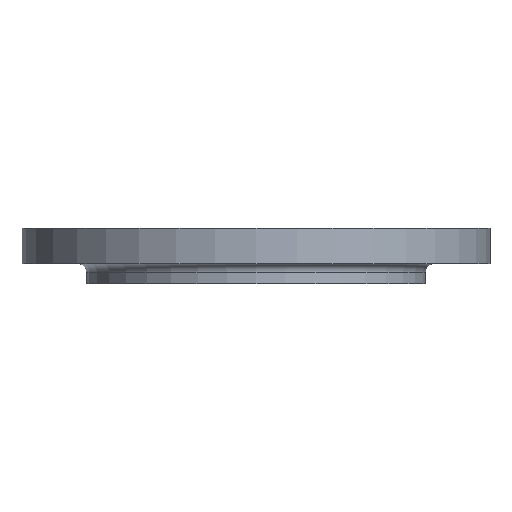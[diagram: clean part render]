
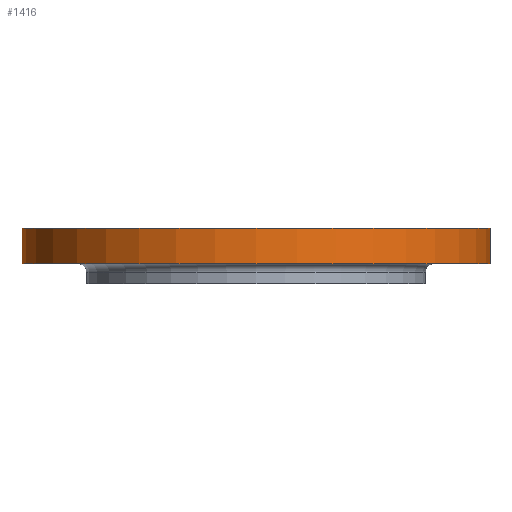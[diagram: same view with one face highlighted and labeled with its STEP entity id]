
A CAD part, front view. The second image highlights one B-rep face of the part: STEP entity #1416.
In plain terms, the highlighted cylindrical face has radius 330 mm (diameter 660 mm), a partial arc.
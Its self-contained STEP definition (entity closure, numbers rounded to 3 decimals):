
#122 = AXIS2_PLACEMENT_3D ( 'NONE', #463, #462, #461 ) ;
#125 = CIRCLE ( 'NONE', #122, 330. ) ;
#129 = VECTOR ( 'NONE', #1106, 1000. ) ;
#130 = CIRCLE ( 'NONE', #132, 330. ) ;
#132 = AXIS2_PLACEMENT_3D ( 'NONE', #1105, #1102, #1101 ) ;
#142 = ORIENTED_EDGE ( 'NONE', *, *, #1400, .T. ) ;
#144 = ORIENTED_EDGE ( 'NONE', *, *, #674, .F. ) ;
#147 = ORIENTED_EDGE ( 'NONE', *, *, #696, .F. ) ;
#152 = ORIENTED_EDGE ( 'NONE', *, *, #693, .T. ) ;
#295 = CARTESIAN_POINT ( 'NONE',  ( 330., 0., -50. ) ) ;
#302 = CARTESIAN_POINT ( 'NONE',  ( -330., 0., -50. ) ) ;
#323 = CARTESIAN_POINT ( 'NONE',  ( -330., 0., 0. ) ) ;
#440 = DIRECTION ( 'NONE',  ( 1., 0., 0. ) ) ;
#441 = DIRECTION ( 'NONE',  ( 0., 0., 1. ) ) ;
#443 = CARTESIAN_POINT ( 'NONE',  ( 0., 0., -145. ) ) ;
#444 = CYLINDRICAL_SURFACE ( 'NONE', #1151, 330. ) ;
#445 = FACE_OUTER_BOUND ( 'NONE', #991, .T. ) ;
#461 = DIRECTION ( 'NONE',  ( 1., 0., 0. ) ) ;
#462 = DIRECTION ( 'NONE',  ( 0., 0., 1. ) ) ;
#463 = CARTESIAN_POINT ( 'NONE',  ( 0., 0., -50. ) ) ;
#465 = CARTESIAN_POINT ( 'NONE',  ( 330., 0., 0. ) ) ;
#674 = EDGE_CURVE ( 'NONE', #1499, #1489, #1146, .T. ) ;
#693 = EDGE_CURVE ( 'NONE', #1507, #1399, #1111, .T. ) ;
#696 = EDGE_CURVE ( 'NONE', #1489, #1399, #130, .T. ) ;
#894 = VECTOR ( 'NONE', #1144, 1000. ) ;
#991 = EDGE_LOOP ( 'NONE', ( #144, #142, #152, #147 ) ) ;
#1101 = DIRECTION ( 'NONE',  ( 1., 0., 0. ) ) ;
#1102 = DIRECTION ( 'NONE',  ( 0., 0., 1. ) ) ;
#1105 = CARTESIAN_POINT ( 'NONE',  ( 0., 0., 0. ) ) ;
#1106 = DIRECTION ( 'NONE',  ( 0., 0., 1. ) ) ;
#1110 = CARTESIAN_POINT ( 'NONE',  ( 330., 0., -145. ) ) ;
#1111 = LINE ( 'NONE', #1110, #129 ) ;
#1144 = DIRECTION ( 'NONE',  ( 0., 0., 1. ) ) ;
#1145 = CARTESIAN_POINT ( 'NONE',  ( -330., 0., -145. ) ) ;
#1146 = LINE ( 'NONE', #1145, #894 ) ;
#1151 = AXIS2_PLACEMENT_3D ( 'NONE', #443, #441, #440 ) ;
#1399 = VERTEX_POINT ( 'NONE', #465 ) ;
#1400 = EDGE_CURVE ( 'NONE', #1499, #1507, #125, .T. ) ;
#1416 = ADVANCED_FACE ( 'NONE', ( #445 ), #444, .T. ) ;
#1489 = VERTEX_POINT ( 'NONE', #323 ) ;
#1499 = VERTEX_POINT ( 'NONE', #302 ) ;
#1507 = VERTEX_POINT ( 'NONE', #295 ) ;
